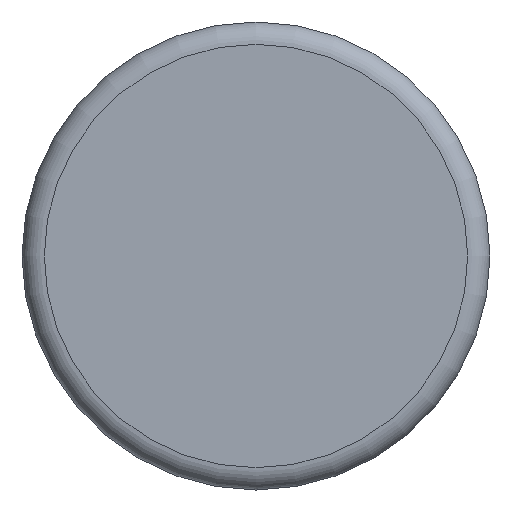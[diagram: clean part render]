
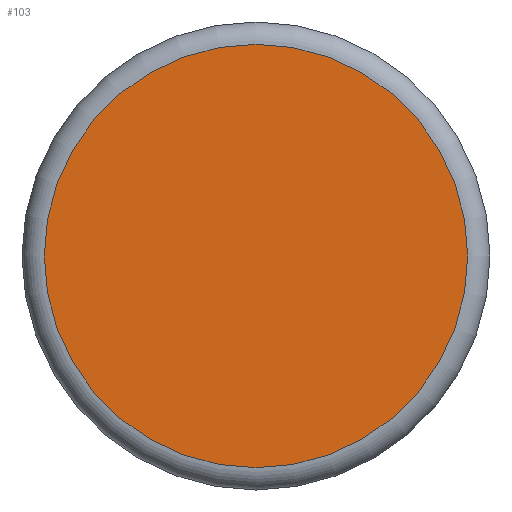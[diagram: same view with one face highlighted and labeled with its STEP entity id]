
A CAD part, front view. The second image highlights one B-rep face of the part: STEP entity #103.
In plain terms, the highlighted planar face has unit normal (0, -1, 0).
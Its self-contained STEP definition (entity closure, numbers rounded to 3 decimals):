
#103=ADVANCED_FACE('',(#184),#186,.T.);
#184=FACE_BOUND('',#185,.T.);
#185=EDGE_LOOP('',(#226));
#186=PLANE('',#187);
#187=AXIS2_PLACEMENT_3D('',#188,#189,#190);
#188=CARTESIAN_POINT('',(0.,-0.9,0.));
#189=DIRECTION('',(0.,-1.,0.));
#190=DIRECTION('',(0.,0.,-1.));
#226=ORIENTED_EDGE('',*,*,#238,.T.);
#238=EDGE_CURVE('',#252,#252,#253,.T.);
#252=VERTEX_POINT('',#286);
#253=CIRCLE('',#287,0.95);
#286=CARTESIAN_POINT('',(0.,-0.9,-0.95));
#287=AXIS2_PLACEMENT_3D('',#288,#289,#290);
#288=CARTESIAN_POINT('',(0.,-0.9,0.));
#289=DIRECTION('',(0.,-1.,0.));
#290=DIRECTION('',(0.,0.,-1.));
